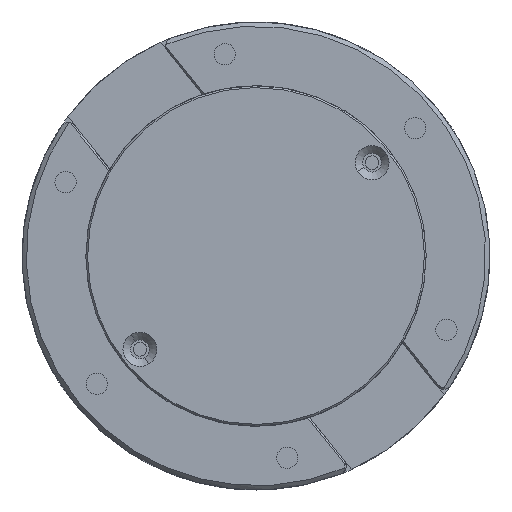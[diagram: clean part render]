
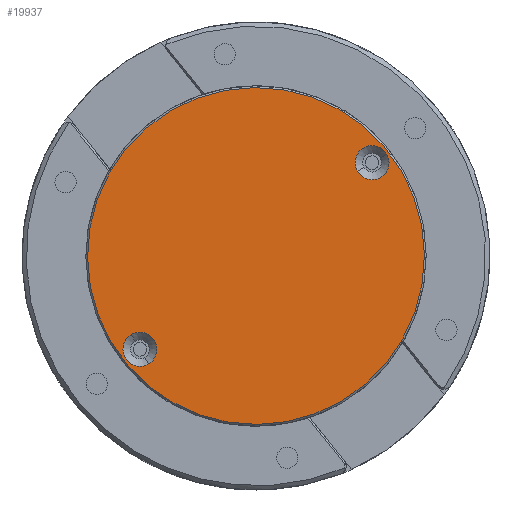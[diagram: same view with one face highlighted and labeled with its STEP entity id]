
A CAD part, left-side view. The second image highlights one B-rep face of the part: STEP entity #19937.
In plain terms, the highlighted planar face has unit normal (-1, 0, 0).
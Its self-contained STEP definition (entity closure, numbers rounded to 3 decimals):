
#869 = CARTESIAN_POINT ( 'NONE',  ( -9.584, 0., 0. ) ) ;
#1073 = ORIENTED_EDGE ( 'NONE', *, *, #29439, .F. ) ;
#1446 = DIRECTION ( 'NONE',  ( 0., -0.507, -0.862 ) ) ;
#1671 = CARTESIAN_POINT ( 'NONE',  ( -9.584, 13.639, -10.965 ) ) ;
#2929 = CIRCLE ( 'NONE', #18697, 19.8 ) ;
#2992 = CARTESIAN_POINT ( 'NONE',  ( -9.584, -14.653, 9.241 ) ) ;
#3542 = CARTESIAN_POINT ( 'NONE',  ( -9.584, 0., 0. ) ) ;
#3637 = DIRECTION ( 'NONE',  ( 1., 0., 0. ) ) ;
#3879 = EDGE_CURVE ( 'NONE', #10543, #15025, #11199, .T. ) ;
#4008 = ORIENTED_EDGE ( 'NONE', *, *, #3879, .T. ) ;
#4211 = AXIS2_PLACEMENT_3D ( 'NONE', #5281, #21233, #9673 ) ;
#5281 = CARTESIAN_POINT ( 'NONE',  ( -9.584, -13.639, 10.965 ) ) ;
#5460 = DIRECTION ( 'NONE',  ( -1., 0., 0. ) ) ;
#5724 = FACE_BOUND ( 'NONE', #12880, .T. ) ;
#6146 = AXIS2_PLACEMENT_3D ( 'NONE', #25477, #23177, #25775 ) ;
#7962 = PLANE ( 'NONE',  #23353 ) ;
#8404 = CARTESIAN_POINT ( 'NONE',  ( -9.584, 12.625, -12.689 ) ) ;
#8985 = DIRECTION ( 'NONE',  ( 0., -0.507, -0.862 ) ) ;
#9328 = EDGE_LOOP ( 'NONE', ( #4008, #11414 ) ) ;
#9396 = CARTESIAN_POINT ( 'NONE',  ( -9.584, 13.639, -10.965 ) ) ;
#9673 = DIRECTION ( 'NONE',  ( 0., 0.507, 0.862 ) ) ;
#9773 = CIRCLE ( 'NONE', #26253, 2. ) ;
#10543 = VERTEX_POINT ( 'NONE', #26014 ) ;
#11199 = CIRCLE ( 'NONE', #25977, 2. ) ;
#11414 = ORIENTED_EDGE ( 'NONE', *, *, #21389, .T. ) ;
#12219 = EDGE_CURVE ( 'NONE', #12357, #22484, #16779, .T. ) ;
#12357 = VERTEX_POINT ( 'NONE', #2992 ) ;
#12880 = EDGE_LOOP ( 'NONE', ( #18527, #29494 ) ) ;
#12886 = CARTESIAN_POINT ( 'NONE',  ( -9.584, 0., 0. ) ) ;
#13241 = FACE_BOUND ( 'NONE', #9328, .T. ) ;
#13990 = DIRECTION ( 'NONE',  ( 0., 0.507, 0.862 ) ) ;
#14079 = AXIS2_PLACEMENT_3D ( 'NONE', #3542, #3637, #1446 ) ;
#14658 = CARTESIAN_POINT ( 'NONE',  ( -9.584, -10.038, -17.067 ) ) ;
#15025 = VERTEX_POINT ( 'NONE', #8404 ) ;
#15144 = DIRECTION ( 'NONE',  ( 1., 0., 0. ) ) ;
#15458 = CARTESIAN_POINT ( 'NONE',  ( -9.584, 10.038, 17.067 ) ) ;
#15740 = FACE_OUTER_BOUND ( 'NONE', #19875, .T. ) ;
#16779 = CIRCLE ( 'NONE', #6146, 2. ) ;
#18176 = EDGE_CURVE ( 'NONE', #28348, #18532, #2929, .T. ) ;
#18527 = ORIENTED_EDGE ( 'NONE', *, *, #23933, .T. ) ;
#18532 = VERTEX_POINT ( 'NONE', #15458 ) ;
#18697 = AXIS2_PLACEMENT_3D ( 'NONE', #12886, #20355, #8985 ) ;
#19041 = CIRCLE ( 'NONE', #4211, 2. ) ;
#19875 = EDGE_LOOP ( 'NONE', ( #21790, #1073 ) ) ;
#19937 = ADVANCED_FACE ( 'NONE', ( #15740, #5724, #13241 ), #7962, .T. ) ;
#20355 = DIRECTION ( 'NONE',  ( 1., 0., 0. ) ) ;
#21233 = DIRECTION ( 'NONE',  ( 1., 0., 0. ) ) ;
#21389 = EDGE_CURVE ( 'NONE', #15025, #10543, #9773, .T. ) ;
#21526 = DIRECTION ( 'NONE',  ( 0., 0.507, 0.862 ) ) ;
#21790 = ORIENTED_EDGE ( 'NONE', *, *, #18176, .F. ) ;
#22484 = VERTEX_POINT ( 'NONE', #25196 ) ;
#23177 = DIRECTION ( 'NONE',  ( 1., 0., 0. ) ) ;
#23353 = AXIS2_PLACEMENT_3D ( 'NONE', #869, #5460, #21526 ) ;
#23933 = EDGE_CURVE ( 'NONE', #22484, #12357, #19041, .T. ) ;
#24421 = DIRECTION ( 'NONE',  ( 0., 0.507, 0.862 ) ) ;
#25196 = CARTESIAN_POINT ( 'NONE',  ( -9.584, -12.625, 12.689 ) ) ;
#25477 = CARTESIAN_POINT ( 'NONE',  ( -9.584, -13.639, 10.965 ) ) ;
#25561 = DIRECTION ( 'NONE',  ( 1., 0., 0. ) ) ;
#25775 = DIRECTION ( 'NONE',  ( 0., 0.507, 0.862 ) ) ;
#25977 = AXIS2_PLACEMENT_3D ( 'NONE', #1671, #15144, #24421 ) ;
#26014 = CARTESIAN_POINT ( 'NONE',  ( -9.584, 14.653, -9.241 ) ) ;
#26253 = AXIS2_PLACEMENT_3D ( 'NONE', #9396, #25561, #13990 ) ;
#27747 = CIRCLE ( 'NONE', #14079, 19.8 ) ;
#28348 = VERTEX_POINT ( 'NONE', #14658 ) ;
#29439 = EDGE_CURVE ( 'NONE', #18532, #28348, #27747, .T. ) ;
#29494 = ORIENTED_EDGE ( 'NONE', *, *, #12219, .T. ) ;
